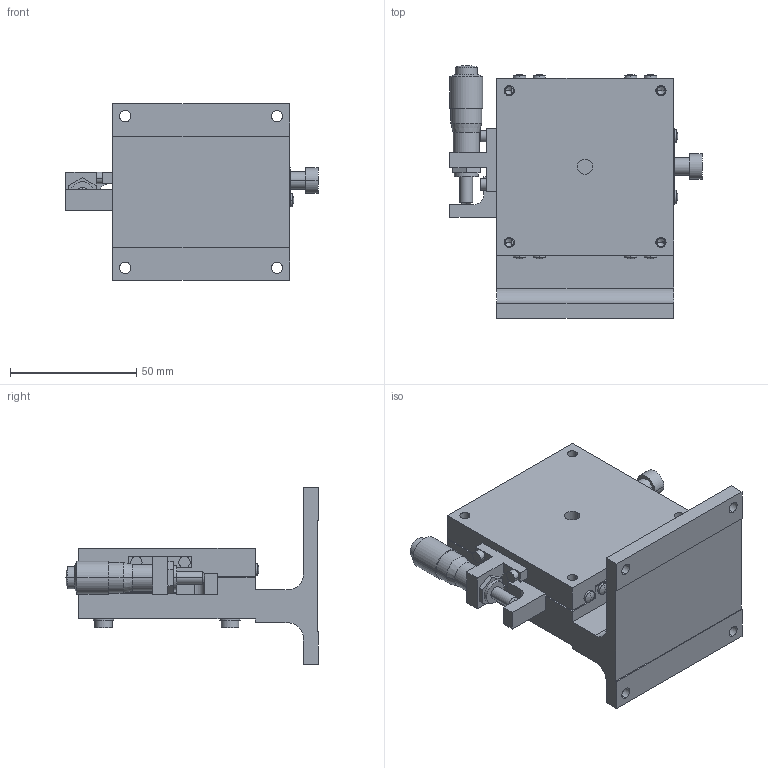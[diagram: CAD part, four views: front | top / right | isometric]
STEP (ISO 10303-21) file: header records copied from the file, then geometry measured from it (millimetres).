
FILE_DESCRIPTION (( 'STEP AP203' ), '1' );
FILE_NAME ('LZ-7047-SR8.STEP', '2011-08-10T06:12:20', ( '' ), ( '' ), 'SwSTEP 2.0', 'SolidWorks 2011', '' );
FILE_SCHEMA (( 'CONFIG_CONTROL_DESIGN' ));
Length unit declared in the file: millimetre
Products named in the file (3): LZ-7047-SR8; LZ-7047-SR8-2; LZ-7047-SR8-1
Assembly tree (2 placements, depth 2):
  LZ-7047-SR8
    LZ-7047-SR8-2
    LZ-7047-SR8-1
Bounding box: 99.8 x 100 x 70 mm (x, y, z)
Volume: 178258.4 mm3; surface area: 58055.6 mm2
Topology: 3 solids, 7 shells, 314 faces, 743 edges, 476 vertices
Faces by surface type: plane 135, cylinder 125, cone 32, sphere 18, torus 2, bspline 2
Entity records: 9816 total; most frequent: CARTESIAN_POINT 1978, DIRECTION 1671, ORIENTED_EDGE 1466, EDGE_CURVE 733, AXIS2_PLACEMENT_3D 633, VERTEX_POINT 476, VECTOR 405, LINE 405
